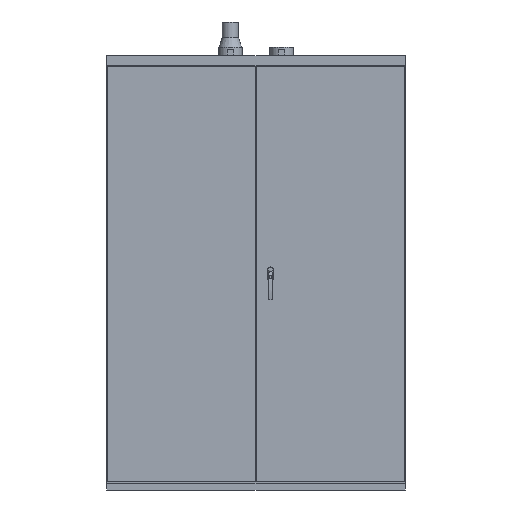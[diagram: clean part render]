
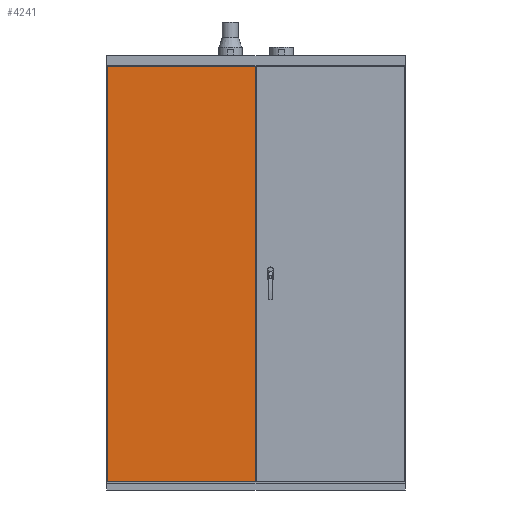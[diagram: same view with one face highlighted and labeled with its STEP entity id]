
A CAD part, front view. The second image highlights one B-rep face of the part: STEP entity #4241.
In plain terms, the highlighted planar face has unit normal (0, -1, 0).
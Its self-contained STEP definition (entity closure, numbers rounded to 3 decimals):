
#371=ORIENTED_EDGE('',*,*,#1158,.T.);
#372=ORIENTED_EDGE('',*,*,#1159,.T.);
#373=ORIENTED_EDGE('',*,*,#1160,.T.);
#374=ORIENTED_EDGE('',*,*,#1161,.T.);
#1158=EDGE_CURVE('',#1564,#1565,#1839,.T.);
#1159=EDGE_CURVE('',#1565,#1566,#1840,.T.);
#1160=EDGE_CURVE('',#1566,#1567,#1841,.T.);
#1161=EDGE_CURVE('',#1567,#1564,#1842,.T.);
#1564=VERTEX_POINT('',#5840);
#1565=VERTEX_POINT('',#5841);
#1566=VERTEX_POINT('',#5843);
#1567=VERTEX_POINT('',#5845);
#1839=LINE('',#5839,#2196);
#1840=LINE('',#5842,#2197);
#1841=LINE('',#5844,#2198);
#1842=LINE('',#5846,#2199);
#2196=VECTOR('',#4884,1000.);
#2197=VECTOR('',#4885,1000.);
#2198=VECTOR('',#4886,1000.);
#2199=VECTOR('',#4887,1000.);
#2456=EDGE_LOOP('',(#371,#372,#373,#374));
#2667=FACE_BOUND('',#2456,.T.);
#2844=PLANE('',#4443);
#4241=ADVANCED_FACE('',(#2667),#2844,.F.);
#4443=AXIS2_PLACEMENT_3D('',#5838,#4882,#4883);
#4882=DIRECTION('',(0.,1.,0.));
#4883=DIRECTION('',(0.,0.,1.));
#4884=DIRECTION('',(0.,0.,1.));
#4885=DIRECTION('',(-1.,0.,0.));
#4886=DIRECTION('',(0.,0.,-1.));
#4887=DIRECTION('',(1.,0.,0.));
#5838=CARTESIAN_POINT('',(300.,0.,2030.));
#5839=CARTESIAN_POINT('',(695.,0.,38.3));
#5840=CARTESIAN_POINT('',(695.,0.,38.3));
#5841=CARTESIAN_POINT('',(695.,0.,1979.3));
#5842=CARTESIAN_POINT('',(1195.,0.,1979.3));
#5843=CARTESIAN_POINT('',(3.,0.,1979.3));
#5844=CARTESIAN_POINT('',(3.,0.,1979.3));
#5845=CARTESIAN_POINT('',(3.,0.,38.3));
#5846=CARTESIAN_POINT('',(300.,0.,38.3));
